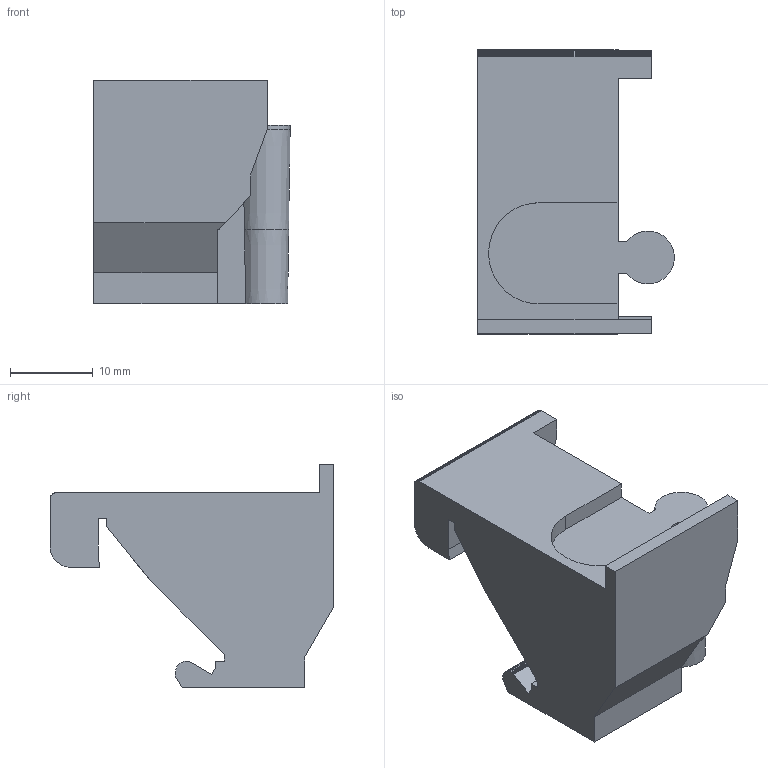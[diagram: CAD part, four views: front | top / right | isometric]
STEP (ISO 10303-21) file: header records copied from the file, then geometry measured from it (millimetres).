
FILE_DESCRIPTION(('Open CASCADE Model'),'2;1');
FILE_NAME('Open CASCADE Shape Model','2026-10-27T10:19:41',('Author'),( 'Open CASCADE'),'Open CASCADE STEP processor 8.0','build123d', 'Unknown');
FILE_SCHEMA(('AUTOMOTIVE_DESIGN { 1 0 10303 214 1 1 1 1 }'));
Length unit declared in the file: millimetre
Products named in the file (1): SOLID
Bounding box: 23.68 x 34.2 x 26.9 mm (x, y, z)
Volume: 9018.7 mm3; surface area: 3912.9 mm2
Topology: 1 solids, 1 shells, 103 faces, 307 edges, 206 vertices
Faces by surface type: plane 98, cone 3, bspline 1, cylinder 1
Entity records: 7246 total; most frequent: CARTESIAN_POINT 2014, DIRECTION 666, ORIENTED_EDGE 614, PCURVE 614, DEFINITIONAL_REPRESENTATION 614, B_SPLINE_CURVE_WITH_KNOTS 467, LINE 444, VECTOR 444
